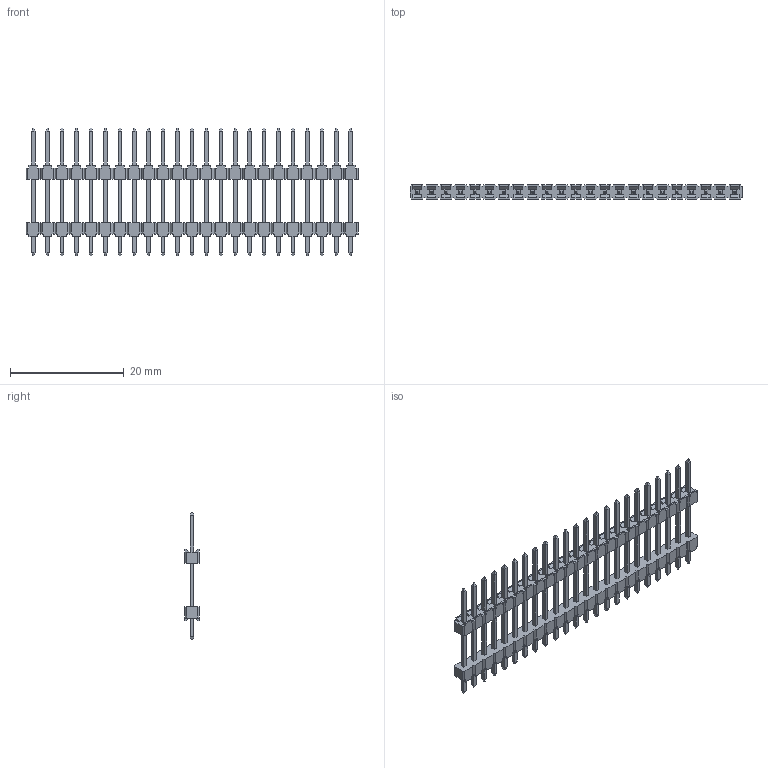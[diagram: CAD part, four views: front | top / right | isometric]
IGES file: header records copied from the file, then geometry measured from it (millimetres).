
Global section: file name: N:\GOLF_VI_2_54mm_UGII\9614XX-X04XX04-XX (TS-2185)\961423-9041204-XX.igs; native system: NX V3.0; preprocessor: UGS NX IGES V4.0; date: 20070618.105418; units: millimetre
Bounding box: 58.42 x 2.5 x 22.4 mm (x, y, z)
Surface area: 2263.2 mm2 (no closed solid volume)
Topology: 0 solids, 0 shells, 1254 faces, 6857 edges, 6857 vertices
Faces by surface type: bspline 1254
